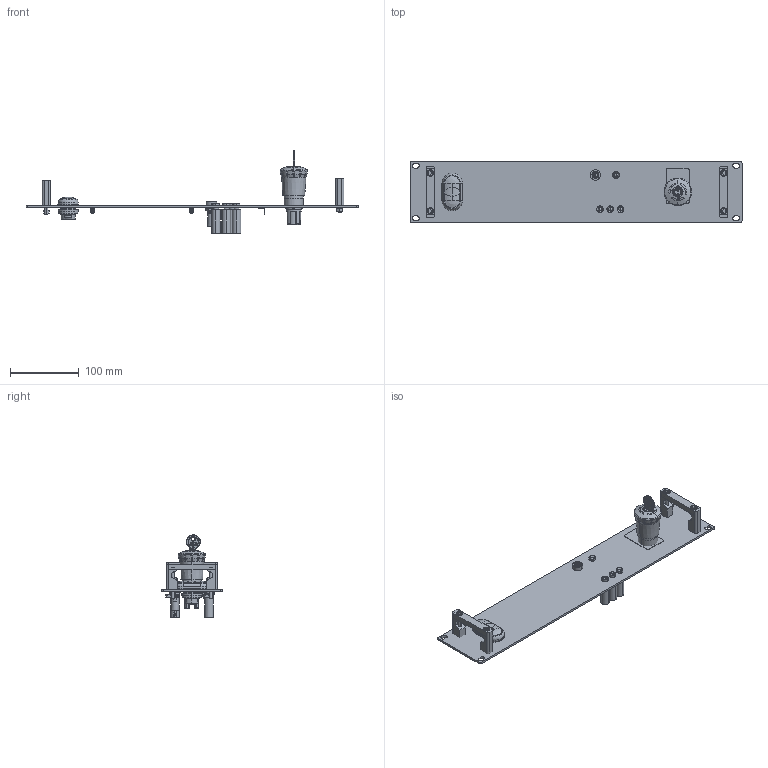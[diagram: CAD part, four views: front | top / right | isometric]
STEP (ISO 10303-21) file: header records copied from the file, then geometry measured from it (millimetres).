
FILE_DESCRIPTION(('STEP AP214'),'1');
FILE_NAME('SE_M1_19Z_2HE_1PH16_STL_3D_01.step','2020-05-08T09:22:28',(' '),(' '),'Spatial InterOp 3D',' ',' ');
FILE_SCHEMA(('AUTOMOTIVE_DESIGN { 1 0 10303 214 1 1 1 1 }'));
Length unit declared in the file: millimetre
Products named in the file (4): 325_Schrankeinschaltung _3PH_3D_03; H&H_Logo; AutoCreatedBlock_125
Assembly tree (3 placements, depth 2):
  (unnamed)
    325_Schrankeinschaltung _3PH_3D_03
    H&H_Logo
    AutoCreatedBlock_125
Bounding box: 482.6 x 88.1 x 120.2 mm (x, y, z)
Volume: 261849.6 mm3; surface area: 140968.9 mm2
Topology: 25 solids, 25 shells, 2294 faces, 5908 edges, 3856 vertices
Faces by surface type: plane 1344, cylinder 578, cone 295, sphere 40, torus 30, bspline 7
Entity records: 110006 total; most frequent: CARTESIAN_POINT 16240, DIRECTION 11953, ORIENTED_EDGE 11682, STYLED_ITEM 6005, PRESENTATION_STYLE_ASSIGNMENT 6005, COLOUR_RGB 6005, EDGE_CURVE 5841, AXIS2_PLACEMENT_3D 4103
